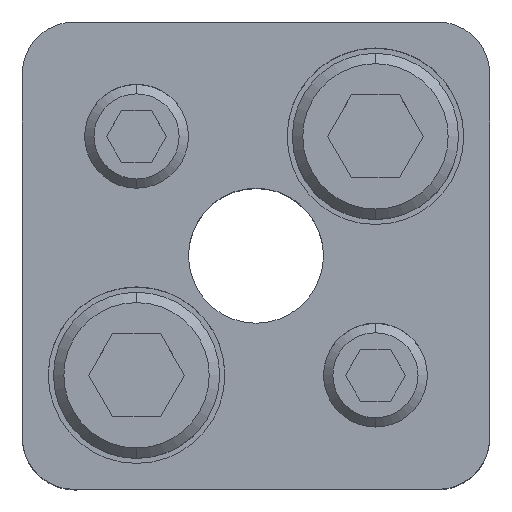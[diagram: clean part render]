
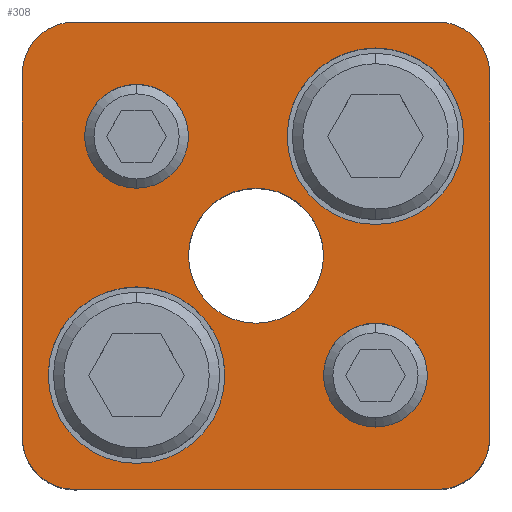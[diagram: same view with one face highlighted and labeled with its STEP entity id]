
A CAD part, top view. The second image highlights one B-rep face of the part: STEP entity #308.
In plain terms, the highlighted planar face has unit normal (0, 0, 1).
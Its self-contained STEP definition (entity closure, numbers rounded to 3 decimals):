
#165=PLANE('',#2567);
#228=FACE_BOUND('',#643,.T.);
#229=FACE_BOUND('',#644,.T.);
#230=FACE_BOUND('',#645,.T.);
#231=FACE_BOUND('',#646,.T.);
#232=FACE_BOUND('',#647,.T.);
#233=FACE_BOUND('',#648,.T.);
#308=ADVANCED_FACE('',(#228,#229,#230,#231,#232,#233),#165,.T.);
#643=EDGE_LOOP('',(#1335,#1336,#1337,#1338,#1339,#1340,#1341,#1342));
#644=EDGE_LOOP('',(#1343,#1344));
#645=EDGE_LOOP('',(#1345,#1346));
#646=EDGE_LOOP('',(#1347,#1348));
#647=EDGE_LOOP('',(#1349,#1350));
#648=EDGE_LOOP('',(#1351,#1352));
#806=LINE('',#3770,#988);
#807=LINE('',#3774,#989);
#808=LINE('',#3778,#990);
#809=LINE('',#3782,#991);
#988=VECTOR('',#3009,1.);
#989=VECTOR('',#3012,1.);
#990=VECTOR('',#3015,1.);
#991=VECTOR('',#3018,1.);
#1335=ORIENTED_EDGE('',*,*,#2102,.T.);
#1336=ORIENTED_EDGE('',*,*,#2103,.T.);
#1337=ORIENTED_EDGE('',*,*,#2104,.T.);
#1338=ORIENTED_EDGE('',*,*,#2105,.T.);
#1339=ORIENTED_EDGE('',*,*,#2106,.T.);
#1340=ORIENTED_EDGE('',*,*,#2107,.T.);
#1341=ORIENTED_EDGE('',*,*,#2108,.T.);
#1342=ORIENTED_EDGE('',*,*,#2109,.T.);
#1343=ORIENTED_EDGE('',*,*,#2110,.F.);
#1344=ORIENTED_EDGE('',*,*,#2111,.F.);
#1345=ORIENTED_EDGE('',*,*,#2112,.F.);
#1346=ORIENTED_EDGE('',*,*,#2113,.F.);
#1347=ORIENTED_EDGE('',*,*,#2088,.F.);
#1348=ORIENTED_EDGE('',*,*,#2084,.F.);
#1349=ORIENTED_EDGE('',*,*,#2082,.F.);
#1350=ORIENTED_EDGE('',*,*,#2078,.F.);
#1351=ORIENTED_EDGE('',*,*,#2114,.T.);
#1352=ORIENTED_EDGE('',*,*,#2115,.T.);
#1837=VERTEX_POINT('',#3718);
#1838=VERTEX_POINT('',#3719);
#1841=VERTEX_POINT('',#3731);
#1842=VERTEX_POINT('',#3732);
#1853=VERTEX_POINT('',#3768);
#1854=VERTEX_POINT('',#3769);
#1855=VERTEX_POINT('',#3771);
#1856=VERTEX_POINT('',#3773);
#1857=VERTEX_POINT('',#3775);
#1858=VERTEX_POINT('',#3777);
#1859=VERTEX_POINT('',#3779);
#1860=VERTEX_POINT('',#3781);
#1861=VERTEX_POINT('',#3784);
#1862=VERTEX_POINT('',#3785);
#1863=VERTEX_POINT('',#3788);
#1864=VERTEX_POINT('',#3789);
#1865=VERTEX_POINT('',#3792);
#1866=VERTEX_POINT('',#3793);
#2078=EDGE_CURVE('',#1837,#1838,#2355,.T.);
#2082=EDGE_CURVE('',#1838,#1837,#2357,.T.);
#2084=EDGE_CURVE('',#1841,#1842,#2359,.T.);
#2088=EDGE_CURVE('',#1842,#1841,#2361,.T.);
#2102=EDGE_CURVE('',#1853,#1854,#2371,.T.);
#2103=EDGE_CURVE('',#1854,#1855,#806,.T.);
#2104=EDGE_CURVE('',#1855,#1856,#2372,.T.);
#2105=EDGE_CURVE('',#1856,#1857,#807,.T.);
#2106=EDGE_CURVE('',#1857,#1858,#2373,.T.);
#2107=EDGE_CURVE('',#1858,#1859,#808,.T.);
#2108=EDGE_CURVE('',#1859,#1860,#2374,.T.);
#2109=EDGE_CURVE('',#1860,#1853,#809,.T.);
#2110=EDGE_CURVE('',#1861,#1862,#2375,.T.);
#2111=EDGE_CURVE('',#1862,#1861,#2376,.T.);
#2112=EDGE_CURVE('',#1863,#1864,#2377,.T.);
#2113=EDGE_CURVE('',#1864,#1863,#2378,.T.);
#2114=EDGE_CURVE('',#1865,#1866,#2379,.T.);
#2115=EDGE_CURVE('',#1866,#1865,#2380,.T.);
#2355=CIRCLE('',#2531,5.);
#2357=CIRCLE('',#2534,5.);
#2359=CIRCLE('',#2538,5.);
#2361=CIRCLE('',#2541,5.);
#2371=CIRCLE('',#2557,5.);
#2372=CIRCLE('',#2558,5.);
#2373=CIRCLE('',#2559,5.);
#2374=CIRCLE('',#2560,5.);
#2375=CIRCLE('',#2561,8.5);
#2376=CIRCLE('',#2562,8.5);
#2377=CIRCLE('',#2563,8.5);
#2378=CIRCLE('',#2564,8.5);
#2379=CIRCLE('',#2565,6.5);
#2380=CIRCLE('',#2566,6.5);
#2531=AXIS2_PLACEMENT_3D('',#3717,#2947,#2948);
#2534=AXIS2_PLACEMENT_3D('',#3726,#2955,#2956);
#2538=AXIS2_PLACEMENT_3D('',#3730,#2963,#2964);
#2541=AXIS2_PLACEMENT_3D('',#3739,#2971,#2972);
#2557=AXIS2_PLACEMENT_3D('',#3767,#3007,#3008);
#2558=AXIS2_PLACEMENT_3D('',#3772,#3010,#3011);
#2559=AXIS2_PLACEMENT_3D('',#3776,#3013,#3014);
#2560=AXIS2_PLACEMENT_3D('',#3780,#3016,#3017);
#2561=AXIS2_PLACEMENT_3D('',#3783,#3019,#3020);
#2562=AXIS2_PLACEMENT_3D('',#3786,#3021,#3022);
#2563=AXIS2_PLACEMENT_3D('',#3787,#3023,#3024);
#2564=AXIS2_PLACEMENT_3D('',#3790,#3025,#3026);
#2565=AXIS2_PLACEMENT_3D('',#3791,#3027,#3028);
#2566=AXIS2_PLACEMENT_3D('',#3794,#3029,#3030);
#2567=AXIS2_PLACEMENT_3D('',#3795,#3031,#3032);
#2947=DIRECTION('',(0.,0.,1.));
#2948=DIRECTION('',(-1.,0.,0.));
#2955=DIRECTION('',(0.,0.,1.));
#2956=DIRECTION('',(1.,0.,0.));
#2963=DIRECTION('',(0.,0.,1.));
#2964=DIRECTION('',(-1.,0.,0.));
#2971=DIRECTION('',(0.,0.,1.));
#2972=DIRECTION('',(1.,0.,0.));
#3007=DIRECTION('',(0.,0.,1.));
#3008=DIRECTION('',(-0.707,0.707,0.));
#3009=DIRECTION('',(0.,1.,0.));
#3010=DIRECTION('',(0.,0.,1.));
#3011=DIRECTION('',(-0.707,-0.707,0.));
#3012=DIRECTION('',(-1.,0.,0.));
#3013=DIRECTION('',(0.,0.,1.));
#3014=DIRECTION('',(0.707,-0.707,0.));
#3015=DIRECTION('',(0.,-1.,0.));
#3016=DIRECTION('',(0.,0.,1.));
#3017=DIRECTION('',(0.707,0.707,0.));
#3018=DIRECTION('',(1.,0.,0.));
#3019=DIRECTION('',(0.,0.,1.));
#3020=DIRECTION('',(1.,0.,0.));
#3021=DIRECTION('',(0.,0.,1.));
#3022=DIRECTION('',(-1.,0.,0.));
#3023=DIRECTION('',(0.,0.,1.));
#3024=DIRECTION('',(1.,0.,0.));
#3025=DIRECTION('',(0.,0.,1.));
#3026=DIRECTION('',(-1.,0.,0.));
#3027=DIRECTION('',(0.,0.,-1.));
#3028=DIRECTION('',(-1.,0.,0.));
#3029=DIRECTION('',(0.,0.,-1.));
#3030=DIRECTION('',(1.,0.,0.));
#3031=DIRECTION('',(0.,0.,1.));
#3032=DIRECTION('',(-1.,0.,0.));
#3717=CARTESIAN_POINT('',(11.5,-11.5,35.));
#3718=CARTESIAN_POINT('',(11.5,-16.5,35.));
#3719=CARTESIAN_POINT('',(11.5,-6.5,35.));
#3726=CARTESIAN_POINT('',(11.5,-11.5,35.));
#3730=CARTESIAN_POINT('',(-11.5,11.5,35.));
#3731=CARTESIAN_POINT('',(-11.5,6.5,35.));
#3732=CARTESIAN_POINT('',(-11.5,16.5,35.));
#3739=CARTESIAN_POINT('',(-11.5,11.5,35.));
#3767=CARTESIAN_POINT('',(17.5,-17.5,35.));
#3768=CARTESIAN_POINT('',(17.5,-22.5,35.));
#3769=CARTESIAN_POINT('',(22.5,-17.5,35.));
#3770=CARTESIAN_POINT('',(22.5,17.5,35.));
#3771=CARTESIAN_POINT('',(22.5,17.5,35.));
#3772=CARTESIAN_POINT('',(17.5,17.5,35.));
#3773=CARTESIAN_POINT('',(17.5,22.5,35.));
#3774=CARTESIAN_POINT('',(-17.5,22.5,35.));
#3775=CARTESIAN_POINT('',(-17.5,22.5,35.));
#3776=CARTESIAN_POINT('',(-17.5,17.5,35.));
#3777=CARTESIAN_POINT('',(-22.5,17.5,35.));
#3778=CARTESIAN_POINT('',(-22.5,17.5,35.));
#3779=CARTESIAN_POINT('',(-22.5,-17.5,35.));
#3780=CARTESIAN_POINT('',(-17.5,-17.5,35.));
#3781=CARTESIAN_POINT('',(-17.5,-22.5,35.));
#3782=CARTESIAN_POINT('',(-17.5,-22.5,35.));
#3783=CARTESIAN_POINT('',(11.5,11.5,35.));
#3784=CARTESIAN_POINT('',(11.5,20.,35.));
#3785=CARTESIAN_POINT('',(11.5,3.,35.));
#3786=CARTESIAN_POINT('',(11.5,11.5,35.));
#3787=CARTESIAN_POINT('',(-11.5,-11.5,35.));
#3788=CARTESIAN_POINT('',(-11.5,-3.,35.));
#3789=CARTESIAN_POINT('',(-11.5,-20.,35.));
#3790=CARTESIAN_POINT('',(-11.5,-11.5,35.));
#3791=CARTESIAN_POINT('',(0.,0.,35.));
#3792=CARTESIAN_POINT('',(0.,6.5,35.));
#3793=CARTESIAN_POINT('',(0.,-6.5,35.));
#3794=CARTESIAN_POINT('',(0.,0.,35.));
#3795=CARTESIAN_POINT('',(17.5,-22.5,35.));
